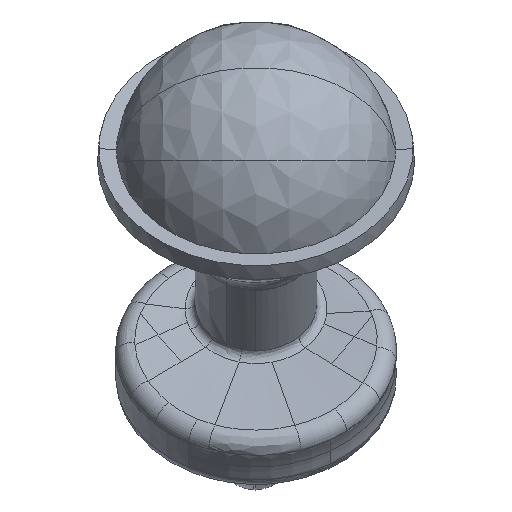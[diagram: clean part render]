
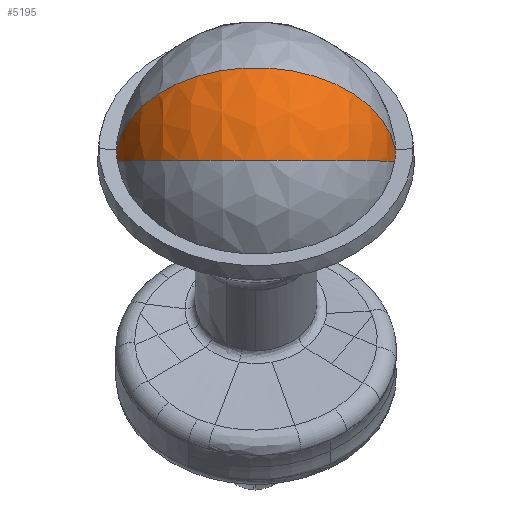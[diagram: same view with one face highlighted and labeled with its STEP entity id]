
A CAD part, top view. The second image highlights one B-rep face of the part: STEP entity #5195.
In plain terms, the highlighted spherical face has radius 16.147 mm.
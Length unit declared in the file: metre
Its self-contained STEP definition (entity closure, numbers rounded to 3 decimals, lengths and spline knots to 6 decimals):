
#5195=ADVANCED_FACE('0:9101',(#6143),#6144,.T.);
#6143=FACE_OUTER_BOUND('',#7383,.T.);
#6144=SPHERICAL_SURFACE('',#7384,0.016147);
#7383=EDGE_LOOP('',(#7987,#7988,#7989,#7990));
#7384=AXIS2_PLACEMENT_3D('',#7991,#7992,#7993);
#7987=ORIENTED_EDGE('',*,*,#11190,.T.);
#7988=ORIENTED_EDGE('',*,*,#11192,.F.);
#7989=ORIENTED_EDGE('',*,*,#11188,.F.);
#7990=ORIENTED_EDGE('',*,*,#11193,.F.);
#7991=CARTESIAN_POINT('',(0.000002,0.172299,0.164549));
#7992=DIRECTION('',(1.,0.,0.));
#7993=DIRECTION('',(0.,-0.008,-1.));
#11188=EDGE_CURVE('0:9079',#11597,#11599,#11600,.T.);
#11190=EDGE_CURVE('',#11602,#11603,#11604,.T.);
#11192=EDGE_CURVE('0:9567',#11599,#11603,#11606,.F.);
#11193=EDGE_CURVE('0:9567',#11602,#11597,#11607,.F.);
#11597=VERTEX_POINT('',#11678);
#11599=VERTEX_POINT('',#11680);
#11600=CIRCLE('',#11681,0.01615);
#11602=VERTEX_POINT('',#11683);
#11603=VERTEX_POINT('',#11684);
#11604=CIRCLE('',#11685,0.016147);
#11606=CIRCLE('',#11687,0.016022);
#11607=CIRCLE('',#11688,0.016022);
#11678=CARTESIAN_POINT('',(-0.016026,0.173635,0.166044));
#11680=CARTESIAN_POINT('',(0.016026,0.173635,0.166044));
#11681=AXIS2_PLACEMENT_3D('',#11756,#11757,#11758);
#11683=CARTESIAN_POINT('',(-0.015923,0.17232,0.167216));
#11684=CARTESIAN_POINT('',(0.015927,0.17232,0.167218));
#11685=AXIS2_PLACEMENT_3D('',#11762,#11763,#11764);
#11687=AXIS2_PLACEMENT_3D('',#11768,#11769,#11770);
#11688=AXIS2_PLACEMENT_3D('',#11771,#11772,#11773);
#11756=CARTESIAN_POINT('',(0.0,0.172303,0.164552));
#11757=DIRECTION('',(0.,0.746,-0.666));
#11758=DIRECTION('',(-0.992,0.082,0.092));
#11762=CARTESIAN_POINT('',(0.000002,0.172299,0.164549));
#11763=DIRECTION('',(0.,1.,-0.008));
#11764=DIRECTION('',(0.,-0.008,-1.));
#11768=CARTESIAN_POINT('',(0.000002,0.173634,0.166044));
#11769=DIRECTION('',(0.,0.666,0.746));
#11770=DIRECTION('',(-1.,0.,0.));
#11771=CARTESIAN_POINT('',(0.000002,0.173634,0.166044));
#11772=DIRECTION('',(0.,0.666,0.746));
#11773=DIRECTION('',(-1.,0.,0.));
